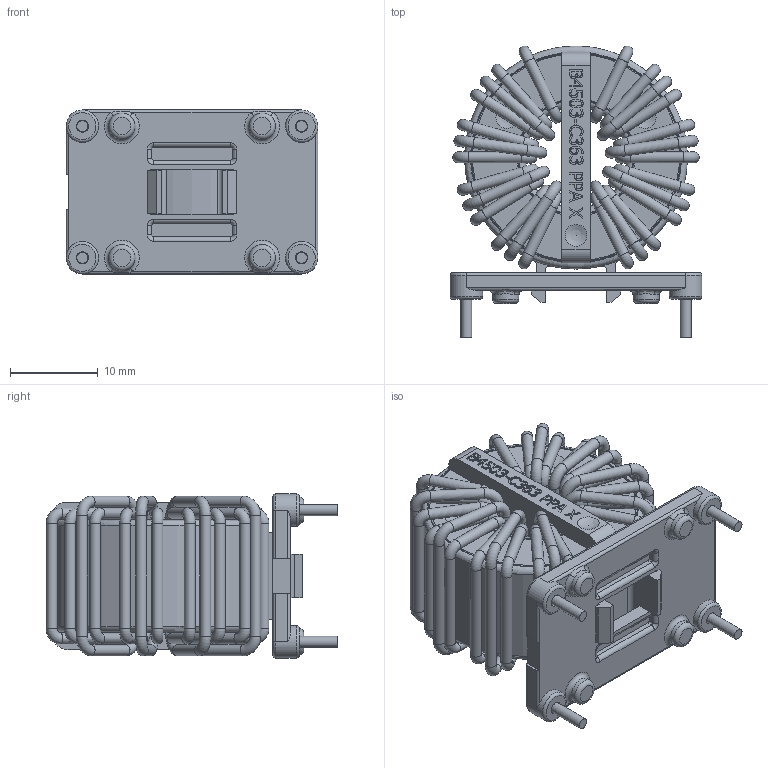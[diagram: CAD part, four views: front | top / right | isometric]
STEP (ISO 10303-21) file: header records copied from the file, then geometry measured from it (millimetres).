
FILE_DESCRIPTION(/* description */ (''),/* implementation_level */ '2;1');
FILE_NAME(/* name */ 'G:\KB-FTKon\CAD\Inventor\Bauelementnummer\6127-X017\6127-X017_Shrinkwrap_1.stp',/* time_stamp */ '2019-04-30T11:10:09+02:00',/* author */ ('de041100'),/* organization */ (''),/* preprocessor_version */ 'ST-DEVELOPER v17.2',/* originating_system */ 'Autodesk Inventor 2019',/* authorisation */ '');
FILE_SCHEMA (('AUTOMOTIVE_DESIGN { 1 0 10303 214 3 1 1 }'));
Length unit declared in the file: millimetre
Products named in the file (1): 6127-X017_Shrinkwrap_1
Bounding box: 28.7 x 33.25 x 18.7 mm (x, y, z)
Volume: 8081.8 mm3; surface area: 9552.9 mm2
Topology: 29 solids, 29 shells, 1412 faces, 4024 edges, 2666 vertices
Faces by surface type: plane 559, bspline 416, cylinder 239, torus 180, sphere 14, cone 4
Full cylindrical faces by diameter (mm): 1.25 x90, 1.4 x4, 3 x4, 3.7 x4, 11.6 x1, 13.2 x1, 23.8 x1, 25.4 x1
Entity records: 51503 total; most frequent: CARTESIAN_POINT 15130, ORIENTED_EDGE 8022, DIRECTION 6171, EDGE_CURVE 4011, VERTEX_POINT 2666, AXIS2_PLACEMENT_3D 2101, LINE 1969, VECTOR 1969
